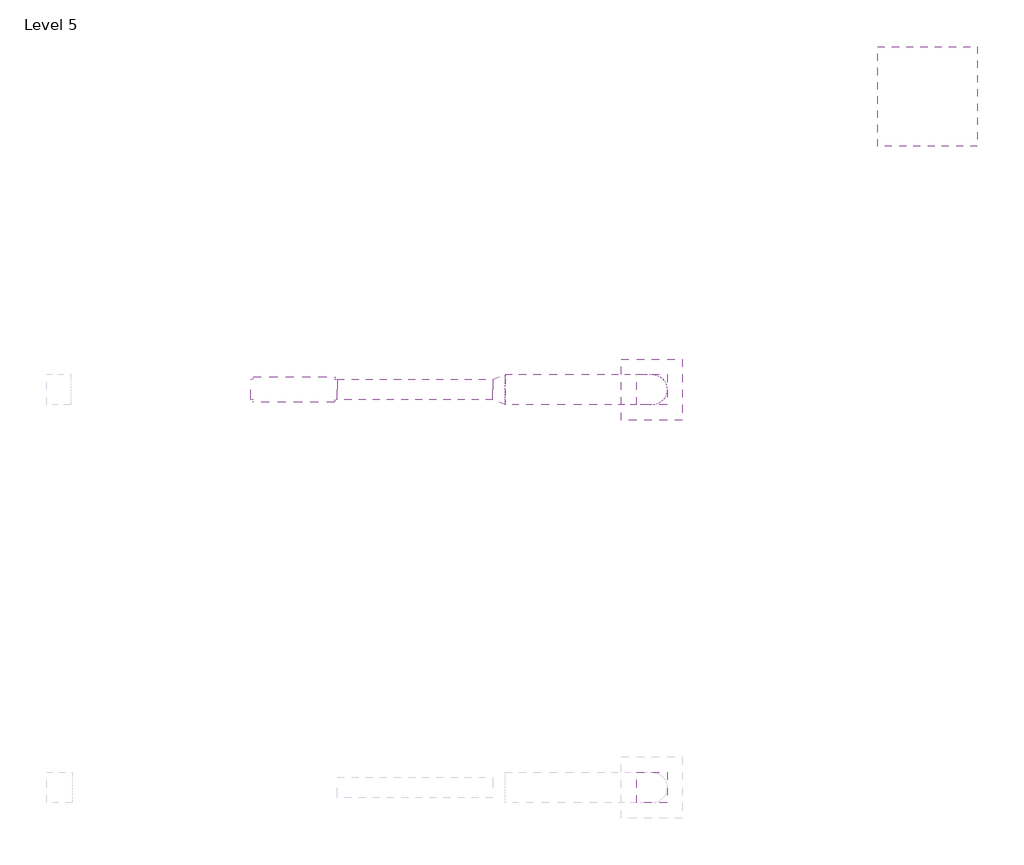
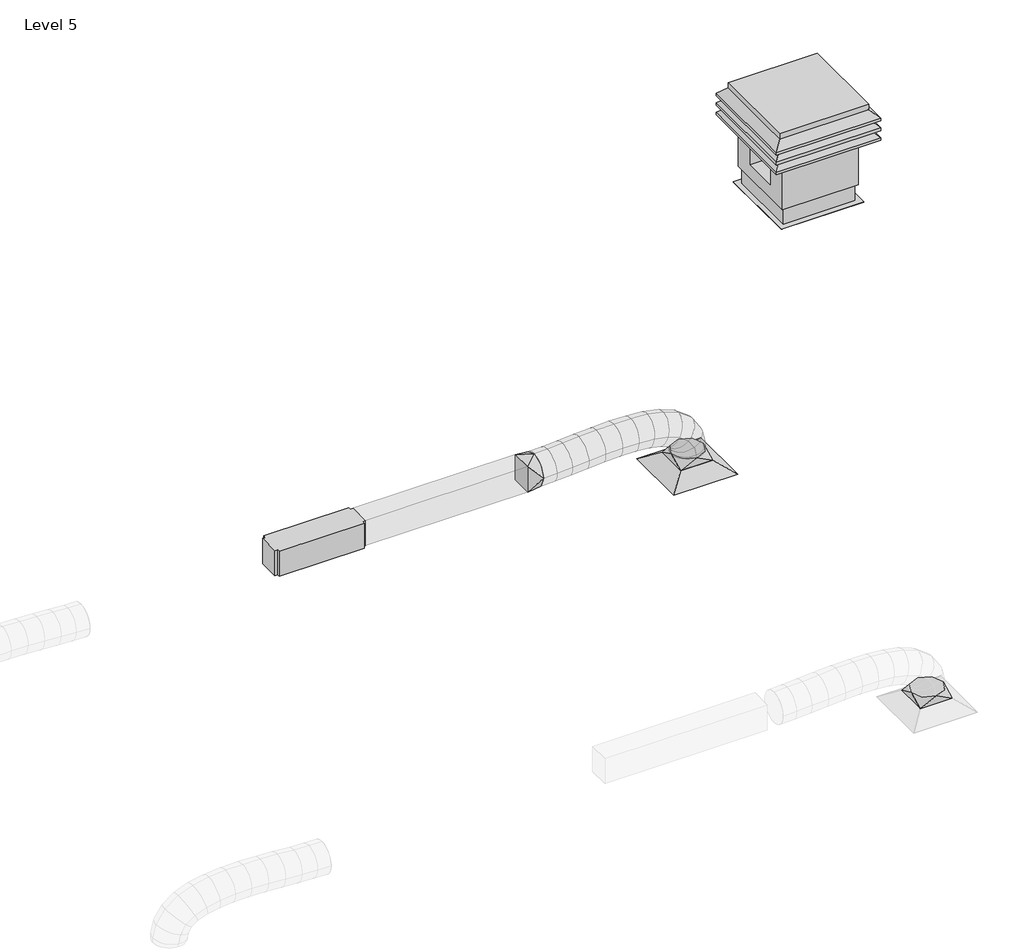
# One storey, part 7 of 7: 4 duct fittings, 2 duct segments, 1 air terminal, 1 proxy.
"""IFC4 building model written with IfcOpenShell, lengths in millimetres."""

import ifcopenshell
import ifcopenshell.guid

model = None  # the IFC model being written
_history = None  # IfcOwnerHistory: only IFC2X3 demands one
_inside = {}  # id of a spatial element -> (the spatial element, [elements in it])
_under = {}  # id of a project, library or spatial element -> (it, [spatial elements below it])
_declared = {}  # id of a project -> (the project, [libraries it declares])
_typed = {}  # id of a type object -> (the type object, [elements of that type])
_made_of = {}  # id of a material, layer set ... -> (it, [elements and type objects made of it])


def new_model(schema):
    """Start an empty IFC model of exactly this schema.

    Asked for "IFC4X3", IfcOpenShell would pick the latest addendum, in which some entities
    have other attributes; the version numbers below select the first issue.
    IFC2X3 requires an IfcOwnerHistory on every rooted entity: one is made here for all.
    """
    global model, _history
    if schema == "IFC4X3":
        model = ifcopenshell.file(schema_version=(4, 3, 0, 0))
    else:
        model = ifcopenshell.file(schema=schema)
    _inside.clear()
    _under.clear()
    _declared.clear()
    _typed.clear()
    _made_of.clear()
    _history = None
    if model.schema == "IFC2X3":
        org = make("IfcOrganization", Name="unknown")
        user = make(
            "IfcPersonAndOrganization",
            ThePerson=make("IfcPerson", FamilyName="unknown"),
            TheOrganization=org,
        )
        app = make(
            "IfcApplication",
            ApplicationDeveloper=org,
            Version="unknown",
            ApplicationFullName="unknown",
            ApplicationIdentifier="unknown",
        )
        _history = make(
            "IfcOwnerHistory",
            OwningUser=user,
            OwningApplication=app,
            ChangeAction="ADDED",
            CreationDate=0,
        )
    return model


def make(cls, **values):
    """One entity of the class cls with the attributes given. An attribute that is None is left unset."""
    return model.create_entity(
        cls, **{name: value for name, value in values.items() if value is not None}
    )


def rooted(cls, **values):
    """An entity with a GlobalId (a new one), such as an element, a storey or a relation."""
    return make(cls, GlobalId=ifcopenshell.guid.new(), OwnerHistory=_history, **values)


def si_unit(unit_type, name, prefix=None):
    """IfcSIUnit, for example si_unit("LENGTHUNIT", "METRE", prefix="MILLI")."""
    return make("IfcSIUnit", UnitType=unit_type, Prefix=prefix, Name=name)


def assignment(units):
    """IfcUnitAssignment: the units of a project."""
    return None if units is None else make("IfcUnitAssignment", Units=units)


def point(xyz):
    """IfcCartesianPoint."""
    return None if xyz is None else make("IfcCartesianPoint", Coordinates=xyz)


def direction(xyz):
    """IfcDirection."""
    return None if xyz is None else make("IfcDirection", DirectionRatios=xyz)


def frame(location, z_axis=None, x_axis=None):
    """IfcAxis2Placement3D, a coordinate frame: its origin and axes. An axis left out is left unset."""
    return make(
        "IfcAxis2Placement3D",
        Location=point(location),
        Axis=direction(z_axis),
        RefDirection=direction(x_axis),
    )


def origin():
    """The frame at (0, 0, 0) with its axes left unset."""
    return frame((0.0, 0.0, 0.0))


def place(relative_to, where):
    """IfcLocalPlacement: puts the frame where relative to a parent placement (None: the world)."""
    return make(
        "IfcLocalPlacement", PlacementRelTo=relative_to, RelativePlacement=where
    )


def context(
    kind, dimensions, precision=None, world=None, true_north=None, identifier=None
):
    """IfcGeometricRepresentationContext, for example the 3D "Model" context."""
    return make(
        "IfcGeometricRepresentationContext",
        ContextIdentifier=identifier,
        ContextType=kind,
        CoordinateSpaceDimension=dimensions,
        Precision=precision,
        WorldCoordinateSystem=world,
        TrueNorth=true_north,
    )


def project(units=None, contexts=None):
    """IfcProject with its units and contexts."""
    return rooted(
        "IfcProject",
        Name="project",
        RepresentationContexts=contexts,
        UnitsInContext=assignment(units),
    )


def spatial(cls, under=None, at=None, **own):
    """A site, building, storey or space (cls), placed at a placement, below another one or the project."""
    s = rooted(cls, ObjectPlacement=at, **own)
    if under is not None:
        _under.setdefault(under.id(), (under, []))[1].append(s)
    return s


def polyline(points):
    """IfcPolyline through the points."""
    return make("IfcPolyline", Points=[point(p) for p in points])


def circle_curve(where, radius):
    """IfcCircle in the frame where."""
    return make("IfcCircle", Position=where, Radius=radius)


def ellipse_curve(where, semi_axis1, semi_axis2):
    """IfcEllipse in the frame where."""
    return make(
        "IfcEllipse", Position=where, SemiAxis1=semi_axis1, SemiAxis2=semi_axis2
    )


def outline(outer, holes=None, kind="AREA"):
    """IfcArbitraryClosedProfileDef: a profile drawn as a closed curve; with holes, ...WithVoids."""
    if holes is None:
        return make("IfcArbitraryClosedProfileDef", ProfileType=kind, OuterCurve=outer)
    return make(
        "IfcArbitraryProfileDefWithVoids",
        ProfileType=kind,
        OuterCurve=outer,
        InnerCurves=holes,
    )


def extrude(swept, where, along, depth):
    """IfcExtrudedAreaSolid: the profile swept, set in the frame where, extruded along a direction by depth."""
    return make(
        "IfcExtrudedAreaSolid",
        SweptArea=swept,
        Position=where,
        ExtrudedDirection=direction(along),
        Depth=depth,
    )


def faces_of(points, faces, orient=None, outer=None):
    """IfcFace entities. A face is a list of loops; a loop is a list of indices into points, from 0.

    orient and outer hold one flag for each loop. By default every Orientation is true, the
    first loop of a face is its IfcFaceOuterBound and the others are IfcFaceBound.
    """
    made = []
    for i, loops in enumerate(faces):
        bounds = []
        for j, loop in enumerate(loops):
            is_outer = j == 0 if outer is None else outer[i][j]
            bounds.append(
                make(
                    "IfcFaceOuterBound" if is_outer else "IfcFaceBound",
                    Bound=make("IfcPolyLoop", Polygon=[points[k] for k in loop]),
                    Orientation=True if orient is None else orient[i][j],
                )
            )
        made.append(make("IfcFace", Bounds=bounds))
    return made


def faceted_brep(points, faces, orient=None, outer=None, voids=None):
    """IfcFacetedBrep: a solid bounded by flat faces; with voids (closed shells), ...WithVoids."""
    shared = [point(p) for p in points]
    hull = make("IfcClosedShell", CfsFaces=faces_of(shared, faces, orient, outer))
    if voids is None:
        return make("IfcFacetedBrep", Outer=hull)
    return make(
        "IfcFacetedBrepWithVoids",
        Outer=hull,
        Voids=[
            make(cls, CfsFaces=faces_of(shared, fs, o, b)) for cls, fs, o, b in voids
        ],
    )


def shape(context_of_items, identifier, shape_type, items):
    """IfcShapeRepresentation: the items that make up one representation, for example the "Body"."""
    return make(
        "IfcShapeRepresentation",
        ContextOfItems=context_of_items,
        RepresentationIdentifier=identifier,
        RepresentationType=shape_type,
        Items=items,
    )


def source(mapping_origin, context_of_items, identifier, shape_type, items):
    """IfcRepresentationMap: a shape defined once, which mapped items show again and again."""
    return make(
        "IfcRepresentationMap",
        MappingOrigin=mapping_origin,
        MappedRepresentation=shape(context_of_items, identifier, shape_type, items),
    )


def transform(
    local_origin,
    x_axis=None,
    y_axis=None,
    z_axis=None,
    scale=None,
    scale2=None,
    scale3=None,
    uniform=True,
):
    """IfcCartesianTransformationOperator3D, or its non-uniform kind. x_axis, y_axis, z_axis: its Axis1, 2, 3."""
    if uniform:
        return make(
            "IfcCartesianTransformationOperator3D",
            Axis1=direction(x_axis),
            Axis2=direction(y_axis),
            LocalOrigin=point(local_origin),
            Scale=scale,
            Axis3=direction(z_axis),
        )
    return make(
        "IfcCartesianTransformationOperator3DnonUniform",
        Axis1=direction(x_axis),
        Axis2=direction(y_axis),
        LocalOrigin=point(local_origin),
        Scale=scale,
        Axis3=direction(z_axis),
        Scale2=scale2,
        Scale3=scale3,
    )


def mapped(mapping_source, mapping_target):
    """IfcMappedItem: shows the shape of a source again, moved by a transform."""
    return make(
        "IfcMappedItem", MappingSource=mapping_source, MappingTarget=mapping_target
    )


def made_of(thing, what):
    """Note that an element or type object is made of a material, layer set ...; save() writes the relation."""
    if what is not None:
        _made_of.setdefault(what.id(), (what, []))[1].append(thing)
    return thing


def element(
    cls,
    number,
    at=None,
    inside=None,
    cuts=None,
    type_object=None,
    material=None,
    context=None,
    identifier="Body",
    shape_type=None,
    held_by="IfcProductDefinitionShape",
    body=None,
    shapes=None,
    **own,
):
    """One element of the class cls, such as IfcWall. Its Tag is "e" and its number.

    at: its placement. inside: the storey or other place that contains it. cuts: it is an
    opening in that element (IfcRelVoidsElement). A single representation is given by context,
    identifier, shape_type and body (its items); several are given by shapes. held_by: the class
    of the entity that holds the representations. save() writes the other relations.
    """
    e = rooted(cls, Tag="e%d" % number, ObjectPlacement=at, **own)
    if body is not None:
        shapes = [shape(context, identifier, shape_type, body)]
    if shapes is not None:
        e.Representation = make(held_by, Representations=shapes)
    if inside is not None:
        _inside.setdefault(inside.id(), (inside, []))[1].append(e)
    if cuts is not None:
        rooted(
            "IfcRelVoidsElement", RelatingBuildingElement=cuts, RelatedOpeningElement=e
        )
    if type_object is not None:
        _typed.setdefault(type_object.id(), (type_object, []))[1].append(e)
    return made_of(e, material)


def aggregate(whole, parts):
    """IfcRelAggregates: a whole, such as a stair, and the parts it consists of."""
    return rooted("IfcRelAggregates", RelatingObject=whole, RelatedObjects=parts)


def save(model, path):
    """Write the relations noted so far, then the file.

    IfcRelAggregates (storeys below a building ...), IfcRelContainedInSpatialStructure (elements
    in a storey), IfcRelDefinesByType, IfcRelAssociatesMaterial and IfcRelDeclares: one each for
    every whole, place, type object, material and project.
    """
    for whole, parts in _under.values():
        aggregate(whole, parts)
    for where, things in _inside.values():
        rooted(
            "IfcRelContainedInSpatialStructure",
            RelatedElements=things,
            RelatingStructure=where,
        )
    for kind, things in _typed.values():
        rooted("IfcRelDefinesByType", RelatedObjects=things, RelatingType=kind)
    for what, things in _made_of.values():
        rooted("IfcRelAssociatesMaterial", RelatedObjects=things, RelatingMaterial=what)
    for by, libraries in _declared.values():
        rooted("IfcRelDeclares", RelatingContext=by, RelatedDefinitions=libraries)
    model.write(path)


def plane_surface(at):
    """IfcPlane: the flat surface through the origin of the frame at, square to its z axis."""
    return make("IfcPlane", Position=at)


def cylinder_surface(at, radius):
    """IfcCylindricalSurface: all points at the distance radius from the z axis of the frame at."""
    return make("IfcCylindricalSurface", Position=at, Radius=radius)


def spline_surface(u_degree, v_degree, points, u_multiplicities, v_multiplicities, u_knots, v_knots, weights=None):
    """IfcBSplineSurfaceWithKnots; with weights, IfcRationalBSplineSurfaceWithKnots. points: one row for each step in u."""
    own = dict(
        UDegree=u_degree,
        VDegree=v_degree,
        ControlPointsList=[[point(p) for p in row] for row in points],
        SurfaceForm="UNSPECIFIED",
        UClosed=False,
        VClosed=False,
        SelfIntersect=False,
        UMultiplicities=u_multiplicities,
        VMultiplicities=v_multiplicities,
        UKnots=u_knots,
        VKnots=v_knots,
        KnotSpec="UNSPECIFIED",
    )
    if weights is None:
        return make("IfcBSplineSurfaceWithKnots", **own)
    return make("IfcRationalBSplineSurfaceWithKnots", WeightsData=weights, **own)


def advanced_brep(points, edges, surfaces, faces):
    """IfcAdvancedBrep: a solid bounded by faces that lie on surfaces and meet in shared edges.

    An edge is (start, end): straight between two places in points (the first is 0);
    or (start, end, curve); or (start, end, curve, False) where it runs against its curve.
    A face is (place in surfaces, loops), or (place, loops, False) where it looks against
    its surface's normal. A loop lists edges by number (the first is 1), with a minus sign
    where the edge is run from its end to its start. The first loop is the outer one.
    """
    corners = [point(p) for p in points]
    vertices = [make("IfcVertexPoint", VertexGeometry=c) for c in corners]
    made = []
    for start, end, *more in edges:
        made.append(
            make(
                "IfcEdgeCurve",
                EdgeStart=vertices[start],
                EdgeEnd=vertices[end],
                EdgeGeometry=more[0] if more else make("IfcPolyline", Points=[corners[start], corners[end]]),
                SameSense=more[1] if len(more) > 1 else True,
            )
        )
    hull = []
    for where, loops, *sense in faces:
        bounds = []
        for j, loop in enumerate(loops):
            ring = [make("IfcOrientedEdge", EdgeElement=made[abs(k) - 1], Orientation=k > 0) for k in loop]
            bounds.append(
                make(
                    "IfcFaceOuterBound" if j == 0 else "IfcFaceBound",
                    Bound=make("IfcEdgeLoop", EdgeList=ring),
                    Orientation=True,
                )
            )
        hull.append(make("IfcAdvancedFace", Bounds=bounds, FaceSurface=surfaces[where], SameSense=sense[0] if sense else True))
    return make("IfcAdvancedBrep", Outer=make("IfcClosedShell", CfsFaces=hull))


def supply_diffuser_24_x_24_face_16_x_16_connection_ff221211(model_context):
    return source(origin(), model_context, "Body", "Brep", [
        faceted_brep([(150.0, 150.0, 101.6), (-150.0, 150.0, 101.6), (-150.0, -150.0, 101.6), (150.0, -150.0, 101.6), (300.0, 300.0, 0.0), (300.0, -300.0, 0.0), (-300.0, -300.0, 0.0), (-300.0, 300.0, 0.0)], [[[0, 1, 2, 3]], [[4, 5, 6, 7]], [[4, 7, 1, 0]], [[7, 6, 2, 1]], [[6, 5, 3, 2]], [[5, 4, 0, 3]]]),
    ])


def asp_t_side_100_asp_t_side_c54fa9d1(model_context):
    return source(origin(), model_context, "Body", "SolidModel", [
        extrude(outline(polyline([(397.647472, -387.35), (-377.052528, -387.35), (-377.052528, 387.35), (397.647472, 387.35), (397.647472, -387.35)]), holes=[polyline([(-326.252528, 336.55), (-326.252528, -336.55), (346.847472, -336.55), (346.847472, 336.55), (-326.252528, 336.55)])]), frame((0.0, 0.0, -165.1), z_axis=(0.0, 0.0, 1.0), x_axis=(1.0, 0.0, 0.0)), (0.0, 0.0, 1.0), 3.175),
        extrude(outline(polyline([(-326.252528, 336.55), (346.847472, 336.55), (346.847472, -336.55), (-326.252528, -336.55), (-326.252528, 336.55)]), holes=[polyline([(308.747472, -298.45), (308.747472, 298.45), (-288.152528, 298.45), (-288.152528, -298.45), (308.747472, -298.45)])]), frame((0.0, 0.0, -165.1), z_axis=(0.0, 0.0, 1.0), x_axis=(1.0, 0.0, 0.0)), (0.0, 0.0, 1.0), 241.3),
        faceted_brep([(-408.802528, 419.1, 812.8), (-408.802528, -419.1, 812.8), (429.397472, -419.1, 812.8), (429.397472, 419.1, 812.8), (499.247472, 488.95, 476.25), (499.247472, -488.95, 476.25), (-478.652528, -488.95, 476.25), (-478.652528, 488.95, 476.25), (-478.652528, 488.95, 501.65), (499.247472, 488.95, 501.65), (499.247472, 488.95, 596.9), (499.247472, 488.95, 571.5), (-478.652528, 488.95, 571.5), (-478.652528, 488.95, 596.9), (499.247472, 488.95, 692.15), (499.247472, 488.95, 666.75), (-478.652528, 488.95, 666.75), (-478.652528, 488.95, 692.15), (-478.652528, -488.95, 501.65), (-478.652528, -488.95, 571.5), (-478.652528, -488.95, 596.9), (-478.652528, -488.95, 666.75), (-478.652528, -488.95, 692.15), (499.247472, -488.95, 501.65), (499.247472, -488.95, 571.5), (499.247472, -488.95, 596.9), (499.247472, -488.95, 666.75), (499.247472, -488.95, 692.15), (-408.802528, -419.1, 571.5), (-408.802528, 419.1, 571.5), (429.397472, -419.1, 571.5), (429.397472, 419.1, 571.5), (-408.802528, -419.1, 666.75), (-408.802528, 419.1, 666.75), (429.397472, -419.1, 666.75), (429.397472, 419.1, 666.75), (-408.802528, -419.1, 762.0), (-408.802528, 419.1, 762.0), (429.397472, -419.1, 762.0), (429.397472, 419.1, 762.0)], [[[0, 1, 2, 3]], [[4, 5, 6, 7]], [[4, 7, 8, 9]], [[10, 11, 12, 13]], [[14, 15, 16, 17]], [[7, 6, 18, 8]], [[13, 12, 19, 20]], [[17, 16, 21, 22]], [[6, 5, 23, 18]], [[20, 19, 24, 25]], [[22, 21, 26, 27]], [[5, 4, 9, 23]], [[24, 11, 10, 25]], [[26, 15, 14, 27]], [[8, 18, 28, 29]], [[12, 11, 24, 19], [28, 30, 31, 29]], [[13, 20, 32, 33]], [[16, 15, 26, 21], [32, 34, 35, 33]], [[17, 22, 36, 37]], [[1, 0, 37, 36]], [[23, 9, 31, 30]], [[25, 10, 35, 34]], [[3, 2, 38, 39]], [[27, 14, 39, 38]], [[30, 28, 18, 23]], [[34, 32, 20, 25]], [[38, 36, 22, 27]], [[36, 38, 2, 1]], [[29, 31, 9, 8]], [[33, 35, 10, 13]], [[37, 39, 14, 17]], [[39, 37, 0, 3]]]),
        faceted_brep([(367.484972, 357.1875, 476.25), (-346.890028, 357.1875, 476.25), (-346.890028, -357.1875, 476.25), (367.484972, -357.1875, 476.25), (367.484972, 357.1875, 0.0), (367.484972, -357.1875, 0.0), (-346.890028, -357.1875, 0.0), (-346.890028, 357.1875, 0.0), (364.309972, 354.0125, 0.0), (-343.715028, 354.0125, 0.0), (-343.715028, -354.0125, 0.0), (364.309972, -354.0125, 0.0), (173.809972, -357.1875, 419.1), (173.809972, -357.1875, 133.35), (-153.215028, -357.1875, 133.35), (-153.215028, -357.1875, 419.1), (364.309972, 354.0125, 76.2), (364.309972, -354.0125, 76.2), (-343.715028, -354.0125, 76.2), (-343.715028, 354.0125, 76.2), (173.809972, -204.7875, 419.1), (-153.215028, -204.7875, 419.1), (-153.215028, -204.7875, 133.35), (173.809972, -204.7875, 133.35)], [[[0, 1, 2, 3]], [[4, 5, 6, 7], [8, 9, 10, 11]], [[1, 0, 4, 7]], [[2, 1, 7, 6]], [[3, 2, 6, 5], [12, 13, 14, 15]], [[0, 3, 5, 4]], [[16, 17, 18, 19]], [[16, 19, 9, 8]], [[19, 18, 10, 9]], [[18, 17, 11, 10]], [[17, 16, 8, 11]], [[20, 21, 22, 23]], [[20, 23, 13, 12]], [[23, 22, 14, 13]], [[22, 21, 15, 14]], [[21, 20, 12, 15]]]),
    ])


def rectangular_cross_standard_00746d32(model_context):
    return source(origin(), model_context, "Body", "SweptSolid", [
        extrude(outline(polyline([(100.0, -425.4), (-100.0, -425.4), (-100.0, -400.0), (-125.4, -400.0), (-125.4, 400.0), (-100.0, 400.0), (-100.0, 425.4), (100.0, 425.4), (100.0, 400.0), (125.4, 400.0), (125.4, -400.0), (100.0, -400.0), (100.0, -425.4)])), frame((0.0, 0.0, -125.0), z_axis=(0.0, 0.0, 1.0), x_axis=(1.0, 0.0, 0.0)), (0.0, 0.0, 1.0), 250.0),
    ])


def rectangular_to_round_transition_angle_45_degree_641efff0(model_context):
    return source(origin(), model_context, "Body", "AdvancedBrep", [
        advanced_brep(
        [(75.0, 0.0, 150.0), (75.0, -150.0, 0.0), (75.0, 0.0, -150.0), (75.0, 150.0, 0.0), (0.0, -150.0, 150.0), (0.0, 150.0, 150.0), (0.0, 150.0, -150.0), (0.0, -150.0, -150.0)],
        [
            (0, 1, circle_curve(frame((75.0, 0.0, 0.0), z_axis=(1.0, 0.0, 0.0), x_axis=(0.0, 1.0, 0.0)), 150.0)),
            (1, 2, circle_curve(frame((75.0, 0.0, 0.0), z_axis=(1.0, 0.0, 0.0), x_axis=(0.0, 1.0, 0.0)), 150.0)),
            (2, 3, circle_curve(frame((75.0, 0.0, 0.0), z_axis=(1.0, 0.0, 0.0), x_axis=(0.0, 1.0, 0.0)), 150.0)),
            (3, 0, circle_curve(frame((75.0, 0.0, 0.0), z_axis=(1.0, 0.0, 0.0), x_axis=(0.0, 1.0, 0.0)), 150.0)),
            (4, 5),
            (5, 6),
            (6, 7),
            (7, 4),
            (0, 4),
            (4, 1),
            (7, 1),
            (7, 2),
            (6, 2),
            (6, 3),
            (5, 3),
            (5, 0),
        ],
        [
            plane_surface(frame((75.0, 0.0, 0.0), z_axis=(1.0, 0.0, 0.0), x_axis=(0.0, 0.0, -1.0))),
            plane_surface(frame((0.0, 0.0, 0.0), z_axis=(-1.0, 0.0, 0.0), x_axis=(0.0, 0.0, -1.0))),
            spline_surface(2, 1, [[(0.0, -150.0, 150.0), (75.0, 0.0, 150.0)], [(0.0, -150.0, 150.0), (75.0, -150.0, 150.0)], [(0.0, -150.0, 150.0), (75.0, -150.0, 0.0)]], [3, 3], [2, 2], [0.0, 1.0], [0.0, 1.0], weights=[[1.0, 1.0], [0.7071067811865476, 0.7071067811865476], [1.0, 1.0]]),
            plane_surface(frame((0.0, -150.0, 0.0), z_axis=(0.0, -1.0, 0.0), x_axis=(0.0, 0.0, -1.0))),
            spline_surface(2, 1, [[(0.0, -150.0, -150.0), (75.0, -150.0, 0.0)], [(0.0, -150.0, -150.0), (75.0, -150.0, -150.0)], [(0.0, -150.0, -150.0), (75.0, 0.0, -150.0)]], [3, 3], [2, 2], [0.0, 1.0], [0.0, 1.0], weights=[[1.0, 1.0], [0.7071067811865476, 0.7071067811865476], [1.0, 1.0]]),
            plane_surface(frame((0.0, 0.0, -150.0), z_axis=(0.0, 0.0, -1.0), x_axis=(0.0, 1.0, 0.0))),
            spline_surface(2, 1, [[(0.0, 150.0, -150.0), (75.0, 0.0, -150.0)], [(0.0, 150.0, -150.0), (75.0, 150.0, -150.0)], [(0.0, 150.0, -150.0), (75.0, 150.0, 0.0)]], [3, 3], [2, 2], [0.0, 1.0], [0.0, 1.0], weights=[[1.0, 1.0], [0.7071067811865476, 0.7071067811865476], [1.0, 1.0]]),
            plane_surface(frame((0.0, 150.0, 0.0), z_axis=(0.0, 1.0, 0.0), x_axis=(0.0, 0.0, 1.0))),
            spline_surface(2, 1, [[(0.0, 150.0, 150.0), (75.0, 150.0, 0.0)], [(0.0, 150.0, 150.0), (75.0, 150.0, 150.0)], [(0.0, 150.0, 150.0), (75.0, 0.0, 150.0)]], [3, 3], [2, 2], [0.0, 1.0], [0.0, 1.0], weights=[[1.0, 1.0], [0.7071067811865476, 0.7071067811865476], [1.0, 1.0]]),
            plane_surface(frame((0.0, 0.0, 150.0), z_axis=(0.0, 0.0, 1.0), x_axis=(0.0, -1.0, 0.0))),
        ],
        [
            (0, [[1, 2, 3, 4]]),
            (1, [[5, 6, 7, 8]]),
            (2, [[-1, 9, 10]]),
            (3, [[-8, 11, -10]]),
            (4, [[-2, -11, 12]]),
            (5, [[-7, 13, -12]]),
            (6, [[-3, -13, 14]]),
            (7, [[-6, 15, -14]]),
            (8, [[-4, -15, 16]]),
            (9, [[-5, -9, -16]]),
        ],
    ),
    ])


def rectangular_to_round_transition_angle_45_degree_389d55c9(model_context):
    return source(origin(), model_context, "Body", "AdvancedBrep", [
        advanced_brep(
        [(120.7106781, 0.0, 150.0), (120.7106781, -150.0, 0.0), (120.7106781, 0.0, -150.0), (120.7106781, 150.0, 0.0), (0.0, -100.0, 125.0), (0.0, 100.0, 125.0), (0.0, 100.0, -125.0), (0.0, -100.0, -125.0)],
        [
            (0, 1, circle_curve(frame((120.7106781, 0.0, 0.0), z_axis=(1.0, 0.0, 0.0), x_axis=(0.0, 1.0, 0.0)), 150.0)),
            (1, 2, circle_curve(frame((120.7106781, 0.0, 0.0), z_axis=(1.0, 0.0, 0.0), x_axis=(0.0, 1.0, 0.0)), 150.0)),
            (2, 3, circle_curve(frame((120.7106781, 0.0, 0.0), z_axis=(1.0, 0.0, 0.0), x_axis=(0.0, 1.0, 0.0)), 150.0)),
            (3, 0, circle_curve(frame((120.7106781, 0.0, 0.0), z_axis=(1.0, 0.0, 0.0), x_axis=(0.0, 1.0, 0.0)), 150.0)),
            (4, 5),
            (5, 6),
            (6, 7),
            (7, 4),
            (0, 4),
            (4, 1),
            (7, 1),
            (7, 2),
            (6, 2),
            (6, 3),
            (5, 3),
            (5, 0),
        ],
        [
            plane_surface(frame((120.7106781, 0.0, 0.0), z_axis=(1.0, 0.0, 0.0), x_axis=(0.0, 0.0, -1.0))),
            plane_surface(frame((0.0, 0.0, 0.0), z_axis=(-1.0, 0.0, 0.0), x_axis=(0.0, 0.0, -1.0))),
            spline_surface(2, 1, [[(0.0, -100.0, 125.0), (120.7106781, 0.0, 150.0)], [(0.0, -100.0, 125.0), (120.7106781, -150.0, 150.0)], [(0.0, -100.0, 125.0), (120.7106781, -150.0, 0.0)]], [3, 3], [2, 2], [0.0, 1.0], [0.0, 1.0], weights=[[1.0, 1.0], [0.7071067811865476, 0.7071067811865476], [1.0, 1.0]]),
            plane_surface(frame((0.0, -100.0, 0.0), z_axis=(-0.38268343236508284, -0.9238795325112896, 0.0), x_axis=(0.0, 0.0, -1.0))),
            spline_surface(2, 1, [[(0.0, -100.0, -125.0), (120.7106781, -150.0, 0.0)], [(0.0, -100.0, -125.0), (120.7106781, -150.0, -150.0)], [(0.0, -100.0, -125.0), (120.7106781, 0.0, -150.0)]], [3, 3], [2, 2], [0.0, 1.0], [0.0, 1.0], weights=[[1.0, 1.0], [0.7071067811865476, 0.7071067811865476], [1.0, 1.0]]),
            plane_surface(frame((0.0, 0.0, -125.0), z_axis=(-0.2028030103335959, 0.0, -0.9792195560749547), x_axis=(0.0, 1.0, 0.0))),
            spline_surface(2, 1, [[(0.0, 100.0, -125.0), (120.7106781, 0.0, -150.0)], [(0.0, 100.0, -125.0), (120.7106781, 150.0, -150.0)], [(0.0, 100.0, -125.0), (120.7106781, 150.0, 0.0)]], [3, 3], [2, 2], [0.0, 1.0], [0.0, 1.0], weights=[[1.0, 1.0], [0.7071067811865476, 0.7071067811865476], [1.0, 1.0]]),
            plane_surface(frame((0.0, 100.0, 0.0), z_axis=(-0.3826834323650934, 0.9238795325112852, 0.0), x_axis=(0.0, 0.0, 1.0))),
            spline_surface(2, 1, [[(0.0, 100.0, 125.0), (120.7106781, 150.0, 0.0)], [(0.0, 100.0, 125.0), (120.7106781, 150.0, 150.0)], [(0.0, 100.0, 125.0), (120.7106781, 0.0, 150.0)]], [3, 3], [2, 2], [0.0, 1.0], [0.0, 1.0], weights=[[1.0, 1.0], [0.7071067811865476, 0.7071067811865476], [1.0, 1.0]]),
            plane_surface(frame((0.0, 0.0, 125.0), z_axis=(-0.20280301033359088, 0.0, 0.9792195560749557), x_axis=(0.0, -1.0, 0.0))),
        ],
        [
            (0, [[1, 2, 3, 4]]),
            (1, [[5, 6, 7, 8]]),
            (2, [[-1, 9, 10]]),
            (3, [[-8, 11, -10]]),
            (4, [[-2, -11, 12]]),
            (5, [[-7, 13, -12]]),
            (6, [[-3, -13, 14]]),
            (7, [[-6, 15, -14]]),
            (8, [[-4, -15, 16]]),
            (9, [[-5, -9, -16]]),
        ],
    ),
    ])


model = new_model("IFC4")

# Units and contexts
model_context = context("Model", 3, world=origin())
ifc_project = project(units=[si_unit("LENGTHUNIT", "METRE", prefix="MILLI")], contexts=[model_context])

# Site, building, storey
site = spatial("IfcSite", under=ifc_project)
building = spatial("IfcBuilding", under=site)
storey = spatial("IfcBuildingStorey", under=building, Name="Level 5", Elevation=19507.2)

# Air terminal
placement = place(None, origin())
supply_diffuser_24_x_24_face_16_x_16_connection_shape = supply_diffuser_24_x_24_face_16_x_16_connection_ff221211(model_context)
element("IfcAirTerminal", 1, ObjectType="Supply Diffuser : 24 x 24 Face 16 x 16 Connection", at=placement, inside=storey, context=model_context, shape_type="MappedRepresentation", body=[
    mapped(supply_diffuser_24_x_24_face_16_x_16_connection_shape, transform((5721.7425718, 12661.2215712, 21507.2), x_axis=(1.0, 0.0, 0.0), y_axis=(0.0, 1.0, 0.0), z_axis=(0.0, 0.0, 1.0))),
])

# Proxy
asp_t_side_100_asp_t_side_shape = asp_t_side_100_asp_t_side_c54fa9d1(model_context)
element("IfcBuildingElementProxy", 2, Name="ASP-T_SIDE : 100_ASP-T_SIDE", ObjectType="ASP-T_SIDE : 100_ASP-T_SIDE", at=placement, inside=storey, context=model_context, shape_type="MappedRepresentation", body=[
    mapped(asp_t_side_100_asp_t_side_shape, transform((8425.0442542, 15546.0604171, 21707.2), x_axis=(0.0, -1.0, 0.0), y_axis=(1.0, 0.0, 0.0), z_axis=(0.0, 0.0, 1.0))),
])

# Duct fittings
rectangular_cross_standard_shape = rectangular_cross_standard_00746d32(model_context)
element("IfcDuctFitting", 3, ObjectType="Rectangular Cross : Standard", at=placement, inside=storey, context=model_context, shape_type="MappedRepresentation", body=[
    mapped(rectangular_cross_standard_shape, transform((2213.8567543, 12661.2215712, 21983.425), x_axis=(0.0, -1.0, 0.0), y_axis=(1.0, 0.0, 0.0), z_axis=(0.0, 0.0, 1.0))),
])
rectangular_to_round_transition_angle_45_degree_shape = rectangular_to_round_transition_angle_45_degree_641efff0(model_context)
element("IfcDuctFitting", 4, ObjectType="Rectangular to Round Transition - Angle : 45 Degree", at=placement, inside=storey, context=model_context, shape_type="MappedRepresentation", body=[
    mapped(rectangular_to_round_transition_angle_45_degree_shape, transform((5721.7425718, 8760.722681, 21608.8), x_axis=(0.0, 0.0, 1.0), y_axis=(-1.0, 0.0, 0.0), z_axis=(0.0, -1.0, 0.0))),
])
element("IfcDuctFitting", 5, ObjectType="Rectangular to Round Transition - Angle : 45 Degree", at=placement, inside=storey, context=model_context, shape_type="MappedRepresentation", body=[
    mapped(rectangular_to_round_transition_angle_45_degree_shape, transform((5721.7425718, 12661.2215712, 21608.8), x_axis=(0.0, 0.0, 1.0), y_axis=(-1.0, 0.0, 0.0), z_axis=(0.0, -1.0, 0.0))),
])
rectangular_to_round_transition_angle_45_degree_2_shape = rectangular_to_round_transition_angle_45_degree_389d55c9(model_context)
element("IfcDuctFitting", 6, ObjectType="Rectangular to Round Transition - Angle : 45 Degree", at=placement, inside=storey, context=model_context, shape_type="MappedRepresentation", body=[
    mapped(rectangular_to_round_transition_angle_45_degree_2_shape, transform((4164.8206306, 12661.2215712, 21983.425), x_axis=(1.0, 0.0, 0.0), y_axis=(0.0, 1.0, 0.0), z_axis=(0.0, 0.0, 1.0))),
])

# Duct segments
element("IfcDuctSegment", 7, ObjectType="Flex - Round", at=placement, inside=storey, context=model_context, shape_type="AdvancedBrep", body=[
    advanced_brep(
    [(5871.7425718, 12661.2215712, 21683.8), (5721.7425718, 12511.2215712, 21683.8), (5571.7425718, 12661.2215712, 21683.8), (5721.7425718, 12811.2215712, 21683.8), (5871.7425718, 12661.2215712, 21726.4384025), (5721.7425718, 12511.2215712, 21709.5374394), (5571.7425718, 12661.2215712, 21692.6364763), (5721.7425718, 12811.2215712, 21709.5374394), (5843.226865, 12661.2215712, 21851.3737092), (5702.8231708, 12511.2215712, 21792.4286395), (5562.4194767, 12661.2215712, 21733.4835698), (5702.8231708, 12811.2215712, 21792.4286395), (5760.5374137, 12661.2215712, 21980.2219341), (5649.317954, 12511.2215712, 21875.8014531), (5538.0984944, 12661.2215712, 21771.3809721), (5649.317954, 12811.2215712, 21875.8014531), (5638.8868804, 12661.2215712, 22069.5911838), (5566.1064004, 12511.2215712, 21936.9319217), (5493.3259205, 12661.2215712, 21804.2726597), (5566.1064004, 12811.2215712, 21936.9319217), (5500.256594, 12661.2215712, 22123.3575379), (5458.0679891, 12511.2215712, 21978.8335266), (5415.8793842, 12661.2215712, 21834.3095153), (5458.0679891, 12811.2215712, 21978.8335266), (5351.4262846, 12661.2215712, 22153.2271695), (5330.0821991, 12511.2215712, 22004.5197488), (5308.7381137, 12661.2215712, 21855.8123281), (5330.0821991, 12811.2215712, 22004.5197488), (5194.6824607, 12661.2215712, 22166.9062305), (5187.0285096, 12511.2215712, 22017.0040693), (5179.3745585, 12661.2215712, 21867.1019082), (5187.0285096, 12811.2215712, 22017.0040693), (5032.6024589, 12661.2215712, 22169.3345413), (5033.7863995, 12511.2215712, 22019.2999694), (5034.9703401, 12661.2215712, 21869.2653974), (5033.7863995, 12811.2215712, 22019.2999694), (4868.6693471, 12661.2215712, 22164.2898816), (4875.235348, 12511.2215712, 22014.42093), (4881.8013489, 12661.2215712, 21864.5519784), (4875.235348, 12811.2215712, 22014.42093), (4707.0624445, 12661.2215712, 22155.1000331), (4716.2548341, 12511.2215712, 22005.3804322), (4725.4472237, 12661.2215712, 21855.6608314), (4716.2548341, 12811.2215712, 22005.3804322), (4552.4980138, 12661.2215712, 22144.9093208), (4561.7243369, 12511.2215712, 21995.1919573), (4570.9506599, 12661.2215712, 21845.4745937), (4561.7243369, 12811.2215712, 21995.1919573), (4410.1976081, 12661.2215712, 22136.7526129), (4416.5233354, 12511.2215712, 21986.8689862), (4422.8490627, 12661.2215712, 21836.9853595), (4416.5233354, 12811.2215712, 21986.8689862), (4287.4410002, 12661.2215712, 22133.425), (4289.4736821, 12511.2215712, 21983.425), (4291.506364, 12661.2215712, 21833.425), (4289.4736821, 12811.2215712, 21983.425), (4285.5313087, 12661.2215712, 22133.425), (4285.5313087, 12511.2215712, 21983.425), (4285.5313087, 12661.2215712, 21833.425), (4285.5313087, 12811.2215712, 21983.425)],
    [
        (0, 1, circle_curve(frame((5721.7425718, 12661.2215712, 21683.8), z_axis=(0.0, 0.0, -1.0), x_axis=(1.0, 0.0, 0.0)), 150.0)),
        (1, 2, circle_curve(frame((5721.7425718, 12661.2215712, 21683.8), z_axis=(0.0, 0.0, -1.0), x_axis=(1.0, 0.0, 0.0)), 150.0)),
        (2, 3, circle_curve(frame((5721.7425718, 12661.2215712, 21683.8), z_axis=(0.0, 0.0, -1.0), x_axis=(1.0, 0.0, 0.0)), 150.0)),
        (3, 0, circle_curve(frame((5721.7425718, 12661.2215712, 21683.8), z_axis=(0.0, 0.0, -1.0), x_axis=(1.0, 0.0, 0.0)), 150.0)),
        (0, 4),
        (4, 5, ellipse_curve(frame((5721.7425718, 12661.2215712, 21709.5374394), z_axis=(0.11196462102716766, 0.0, -0.9937121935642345), x_axis=(-0.9937121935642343, 0.0, -0.11196462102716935)), 150.949139, 150.0)),
        (5, 1),
        (5, 6, ellipse_curve(frame((5721.7425718, 12661.2215712, 21709.5374394), z_axis=(0.11196462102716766, 0.0, -0.9937121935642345), x_axis=(-0.9937121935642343, 0.0, -0.11196462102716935)), 150.949139, 150.0)),
        (6, 2),
        (6, 7, ellipse_curve(frame((5721.7425718, 12661.2215712, 21709.5374394), z_axis=(0.11196462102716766, 0.0, -0.9937121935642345), x_axis=(-0.9937121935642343, 0.0, -0.11196462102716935)), 150.949139, 150.0)),
        (7, 3),
        (7, 4, ellipse_curve(frame((5721.7425718, 12661.2215712, 21709.5374394), z_axis=(0.11196462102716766, 0.0, -0.9937121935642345), x_axis=(-0.9937121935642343, 0.0, -0.11196462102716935)), 150.949139, 150.0)),
        (4, 8),
        (8, 9, ellipse_curve(frame((5702.8231708, 12661.2215712, 21792.4286395), z_axis=(0.3870958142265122, 0.0, -0.9220394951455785), x_axis=(-0.922039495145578, 0.0, -0.38709581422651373)), 152.275141, 150.0)),
        (9, 5),
        (9, 10, ellipse_curve(frame((5702.8231708, 12661.2215712, 21792.4286395), z_axis=(0.3870958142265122, 0.0, -0.9220394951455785), x_axis=(-0.922039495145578, 0.0, -0.38709581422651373)), 152.275141, 150.0)),
        (10, 6),
        (10, 11, ellipse_curve(frame((5702.8231708, 12661.2215712, 21792.4286395), z_axis=(0.3870958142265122, 0.0, -0.9220394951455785), x_axis=(-0.922039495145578, 0.0, -0.38709581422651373)), 152.275141, 150.0)),
        (11, 7),
        (11, 8, ellipse_curve(frame((5702.8231708, 12661.2215712, 21792.4286395), z_axis=(0.3870958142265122, 0.0, -0.9220394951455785), x_axis=(-0.922039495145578, 0.0, -0.38709581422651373)), 152.275141, 150.0)),
        (8, 12),
        (12, 13, ellipse_curve(frame((5649.317954, 12661.2215712, 21875.8014531), z_axis=(0.6844720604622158, 0.0, -0.7290390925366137), x_axis=(-0.7290390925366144, 0.0, -0.6844720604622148)), 152.5562357, 150.0)),
        (13, 9),
        (13, 14, ellipse_curve(frame((5649.317954, 12661.2215712, 21875.8014531), z_axis=(0.6844720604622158, 0.0, -0.7290390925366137), x_axis=(-0.7290390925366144, 0.0, -0.6844720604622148)), 152.5562357, 150.0)),
        (14, 10),
        (14, 15, ellipse_curve(frame((5649.317954, 12661.2215712, 21875.8014531), z_axis=(0.6844720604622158, 0.0, -0.7290390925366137), x_axis=(-0.7290390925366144, 0.0, -0.6844720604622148)), 152.5562357, 150.0)),
        (15, 11),
        (15, 12, ellipse_curve(frame((5649.317954, 12661.2215712, 21875.8014531), z_axis=(0.6844720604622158, 0.0, -0.7290390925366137), x_axis=(-0.7290390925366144, 0.0, -0.6844720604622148)), 152.5562357, 150.0)),
        (12, 16),
        (16, 17, ellipse_curve(frame((5566.1064004, 12661.2215712, 21936.9319217), z_axis=(0.8767236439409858, 0.0, -0.48099444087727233), x_axis=(-0.4809944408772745, 0.0, -0.8767236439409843)), 151.3125179, 150.0)),
        (17, 13),
        (17, 18, ellipse_curve(frame((5566.1064004, 12661.2215712, 21936.9319217), z_axis=(0.8767236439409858, 0.0, -0.48099444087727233), x_axis=(-0.4809944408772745, 0.0, -0.8767236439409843)), 151.3125179, 150.0)),
        (18, 14),
        (18, 19, ellipse_curve(frame((5566.1064004, 12661.2215712, 21936.9319217), z_axis=(0.8767236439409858, 0.0, -0.48099444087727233), x_axis=(-0.4809944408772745, 0.0, -0.8767236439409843)), 151.3125179, 150.0)),
        (19, 15),
        (19, 16, ellipse_curve(frame((5566.1064004, 12661.2215712, 21936.9319217), z_axis=(0.8767236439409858, 0.0, -0.48099444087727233), x_axis=(-0.4809944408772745, 0.0, -0.8767236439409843)), 151.3125179, 150.0)),
        (16, 20),
        (20, 21, ellipse_curve(frame((5458.0679891, 12661.2215712, 21978.8335266), z_axis=(0.9599361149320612, 0.0, -0.28021894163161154), x_axis=(-0.28021894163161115, 0.0, -0.9599361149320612)), 150.5558642, 150.0)),
        (21, 17),
        (21, 22, ellipse_curve(frame((5458.0679891, 12661.2215712, 21978.8335266), z_axis=(0.9599361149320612, 0.0, -0.28021894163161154), x_axis=(-0.28021894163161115, 0.0, -0.9599361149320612)), 150.5558642, 150.0)),
        (22, 18),
        (22, 23, ellipse_curve(frame((5458.0679891, 12661.2215712, 21978.8335266), z_axis=(0.9599361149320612, 0.0, -0.28021894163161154), x_axis=(-0.28021894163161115, 0.0, -0.9599361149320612)), 150.5558642, 150.0)),
        (23, 19),
        (23, 20, ellipse_curve(frame((5458.0679891, 12661.2215712, 21978.8335266), z_axis=(0.9599361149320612, 0.0, -0.28021894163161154), x_axis=(-0.28021894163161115, 0.0, -0.9599361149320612)), 150.5558642, 150.0)),
        (20, 24),
        (24, 25, ellipse_curve(frame((5330.0821991, 12661.2215712, 22004.5197488), z_axis=(0.989855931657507, 0.0, -0.14207474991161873), x_axis=(-0.1420747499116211, 0.0, -0.9898559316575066)), 150.2313781, 150.0)),
        (25, 21),
        (25, 26, ellipse_curve(frame((5330.0821991, 12661.2215712, 22004.5197488), z_axis=(0.989855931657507, 0.0, -0.14207474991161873), x_axis=(-0.1420747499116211, 0.0, -0.9898559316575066)), 150.2313781, 150.0)),
        (26, 22),
        (26, 27, ellipse_curve(frame((5330.0821991, 12661.2215712, 22004.5197488), z_axis=(0.989855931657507, 0.0, -0.14207474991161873), x_axis=(-0.1420747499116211, 0.0, -0.9898559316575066)), 150.2313781, 150.0)),
        (27, 23),
        (27, 24, ellipse_curve(frame((5330.0821991, 12661.2215712, 22004.5197488), z_axis=(0.989855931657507, 0.0, -0.14207474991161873), x_axis=(-0.1420747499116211, 0.0, -0.9898559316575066)), 150.2313781, 150.0)),
        (24, 28),
        (28, 29, ellipse_curve(frame((5187.0285096, 12661.2215712, 22017.0040693), z_axis=(0.9986989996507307, 0.0, -0.05099321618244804), x_axis=(-0.05099321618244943, 0.0, -0.9986989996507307)), 150.097438, 150.0)),
        (29, 25),
        (29, 30, ellipse_curve(frame((5187.0285096, 12661.2215712, 22017.0040693), z_axis=(0.9986989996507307, 0.0, -0.05099321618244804), x_axis=(-0.05099321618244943, 0.0, -0.9986989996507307)), 150.097438, 150.0)),
        (30, 26),
        (30, 31, ellipse_curve(frame((5187.0285096, 12661.2215712, 22017.0040693), z_axis=(0.9986989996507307, 0.0, -0.05099321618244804), x_axis=(-0.05099321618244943, 0.0, -0.9986989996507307)), 150.097438, 150.0)),
        (31, 27),
        (31, 28, ellipse_curve(frame((5187.0285096, 12661.2215712, 22017.0040693), z_axis=(0.9986989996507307, 0.0, -0.05099321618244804), x_axis=(-0.05099321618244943, 0.0, -0.9986989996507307)), 150.097438, 150.0)),
        (28, 32),
        (32, 33, ellipse_curve(frame((5033.7863995, 12661.2215712, 22019.2999694), z_axis=(0.9999688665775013, 0.0, 0.007890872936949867), x_axis=(0.007890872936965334, 0.0, -0.9999688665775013)), 150.0392432, 150.0)),
        (33, 29),
        (33, 34, ellipse_curve(frame((5033.7863995, 12661.2215712, 22019.2999694), z_axis=(0.9999688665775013, 0.0, 0.007890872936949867), x_axis=(0.007890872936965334, 0.0, -0.9999688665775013)), 150.0392432, 150.0)),
        (34, 30),
        (34, 35, ellipse_curve(frame((5033.7863995, 12661.2215712, 22019.2999694), z_axis=(0.9999688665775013, 0.0, 0.007890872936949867), x_axis=(0.007890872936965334, 0.0, -0.9999688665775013)), 150.0392432, 150.0)),
        (35, 31),
        (35, 32, ellipse_curve(frame((5033.7863995, 12661.2215712, 22019.2999694), z_axis=(0.9999688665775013, 0.0, 0.007890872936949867), x_axis=(0.007890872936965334, 0.0, -0.9999688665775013)), 150.0392432, 150.0)),
        (32, 36),
        (36, 37, ellipse_curve(frame((4875.235348, 12661.2215712, 22014.42093), z_axis=(0.9990416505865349, 0.0, 0.043769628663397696), x_axis=(0.043769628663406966, 0.0, -0.9990416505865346)), 150.0127162, 150.0)),
        (37, 33),
        (37, 38, ellipse_curve(frame((4875.235348, 12661.2215712, 22014.42093), z_axis=(0.9990416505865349, 0.0, 0.043769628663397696), x_axis=(0.043769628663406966, 0.0, -0.9990416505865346)), 150.0127162, 150.0)),
        (38, 34),
        (38, 39, ellipse_curve(frame((4875.235348, 12661.2215712, 22014.42093), z_axis=(0.9990416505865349, 0.0, 0.043769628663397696), x_axis=(0.043769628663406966, 0.0, -0.9990416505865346)), 150.0127162, 150.0)),
        (39, 35),
        (39, 36, ellipse_curve(frame((4875.235348, 12661.2215712, 22014.42093), z_axis=(0.9990416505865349, 0.0, 0.043769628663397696), x_axis=(0.043769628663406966, 0.0, -0.9990416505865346)), 150.0127162, 150.0)),
        (36, 40),
        (40, 41, ellipse_curve(frame((4716.2548341, 12661.2215712, 22005.3804322), z_axis=(0.9981204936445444, 0.0, 0.06128197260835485), x_axis=(0.0612819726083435, 1.5057944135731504e-12, -0.9981204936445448)), 150.0015297, 150.0)),
        (41, 37),
        (41, 42, ellipse_curve(frame((4716.2548341, 12661.2215712, 22005.3804322), z_axis=(0.9981204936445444, 0.0, 0.06128197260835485), x_axis=(0.0612819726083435, 1.5057944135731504e-12, -0.9981204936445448)), 150.0015297, 150.0)),
        (42, 38),
        (42, 43, ellipse_curve(frame((4716.2548341, 12661.2215712, 22005.3804322), z_axis=(0.9981204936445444, 0.0, 0.06128197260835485), x_axis=(0.0612819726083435, 1.5057944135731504e-12, -0.9981204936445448)), 150.0015297, 150.0)),
        (43, 39),
        (43, 40, ellipse_curve(frame((4716.2548341, 12661.2215712, 22005.3804322), z_axis=(0.9981204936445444, 0.0, 0.06128197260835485), x_axis=(0.0612819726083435, 1.5057944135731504e-12, -0.9981204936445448)), 150.0015297, 150.0)),
        (40, 44),
        (44, 45, ellipse_curve(frame((4561.7243369, 12661.2215712, 21995.1919573), z_axis=(0.9981065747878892, 0.0, 0.061508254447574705), x_axis=(-0.06150825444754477, 0.0, 0.9981065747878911)), 150.0013799, 150.0)),
        (45, 41),
        (45, 46, ellipse_curve(frame((4561.7243369, 12661.2215712, 21995.1919573), z_axis=(0.9981065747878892, 0.0, 0.061508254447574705), x_axis=(-0.06150825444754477, 0.0, 0.9981065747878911)), 150.0013799, 150.0)),
        (46, 42),
        (46, 47, ellipse_curve(frame((4561.7243369, 12661.2215712, 21995.1919573), z_axis=(0.9981065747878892, 0.0, 0.061508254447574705), x_axis=(-0.06150825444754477, 0.0, 0.9981065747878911)), 150.0013799, 150.0)),
        (47, 43),
        (47, 44, ellipse_curve(frame((4561.7243369, 12661.2215712, 21995.1919573), z_axis=(0.9981065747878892, 0.0, 0.061508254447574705), x_axis=(-0.06150825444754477, 0.0, 0.9981065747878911)), 150.0013799, 150.0)),
        (44, 48),
        (48, 49, ellipse_curve(frame((4416.5233354, 12661.2215712, 21986.8689862), z_axis=(0.9991105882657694, 0.0, 0.04216672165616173), x_axis=(-0.04216672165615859, 0.0, 0.9991105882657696)), 150.0170536, 150.0)),
        (49, 45),
        (49, 50, ellipse_curve(frame((4416.5233354, 12661.2215712, 21986.8689862), z_axis=(0.9991105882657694, 0.0, 0.04216672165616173), x_axis=(-0.04216672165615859, 0.0, 0.9991105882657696)), 150.0170536, 150.0)),
        (50, 46),
        (50, 51, ellipse_curve(frame((4416.5233354, 12661.2215712, 21986.8689862), z_axis=(0.9991105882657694, 0.0, 0.04216672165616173), x_axis=(-0.04216672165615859, 0.0, 0.9991105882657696)), 150.0170536, 150.0)),
        (51, 47),
        (51, 48, ellipse_curve(frame((4416.5233354, 12661.2215712, 21986.8689862), z_axis=(0.9991105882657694, 0.0, 0.04216672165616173), x_axis=(-0.04216672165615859, 0.0, 0.9991105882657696)), 150.0170536, 150.0)),
        (48, 52),
        (52, 53, ellipse_curve(frame((4289.4736821, 12661.2215712, 21983.425), z_axis=(0.9999081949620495, 0.0, 0.013549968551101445), x_axis=(-0.013549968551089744, 0.0, 0.9999081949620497)), 150.013772, 150.0)),
        (53, 49),
        (53, 54, ellipse_curve(frame((4289.4736821, 12661.2215712, 21983.425), z_axis=(0.9999081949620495, 0.0, 0.013549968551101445), x_axis=(-0.013549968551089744, 0.0, 0.9999081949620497)), 150.013772, 150.0)),
        (54, 50),
        (54, 55, ellipse_curve(frame((4289.4736821, 12661.2215712, 21983.425), z_axis=(0.9999081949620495, 0.0, 0.013549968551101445), x_axis=(-0.013549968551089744, 0.0, 0.9999081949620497)), 150.013772, 150.0)),
        (55, 51),
        (55, 52, ellipse_curve(frame((4289.4736821, 12661.2215712, 21983.425), z_axis=(0.9999081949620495, 0.0, 0.013549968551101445), x_axis=(-0.013549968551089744, 0.0, 0.9999081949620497)), 150.013772, 150.0)),
        (52, 56),
        (56, 57, circle_curve(frame((4285.5313087, 12661.2215712, 21983.425), z_axis=(1.0, 0.0, 0.0), x_axis=(0.0, 0.0, 1.0)), 150.0)),
        (57, 53),
        (57, 58, circle_curve(frame((4285.5313087, 12661.2215712, 21983.425), z_axis=(1.0, 0.0, 0.0), x_axis=(0.0, 0.0, 1.0)), 150.0)),
        (58, 54),
        (58, 59, circle_curve(frame((4285.5313087, 12661.2215712, 21983.425), z_axis=(1.0, 0.0, 0.0), x_axis=(0.0, 0.0, 1.0)), 150.0)),
        (59, 55),
        (59, 56, circle_curve(frame((4285.5313087, 12661.2215712, 21983.425), z_axis=(1.0, 0.0, 0.0), x_axis=(0.0, 0.0, 1.0)), 150.0)),
    ],
    [
        plane_surface(frame((5721.7425718, 12511.2215712, 21683.8), z_axis=(0.0, 0.0, -1.0), x_axis=(1.0, 0.0, 0.0))),
        cylinder_surface(frame((5721.7425718, 12661.2215712, 21683.8), z_axis=(0.0, 0.0, -1.0), x_axis=(1.0, 0.0, 0.0)), 150.0),
        cylinder_surface(frame((5721.7425718, 12661.2215712, 21709.5374394), z_axis=(0.22252121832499, 0.0, -0.9749278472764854), x_axis=(0.9749278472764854, 0.0, 0.22252121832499)), 150.0),
        cylinder_surface(frame((5702.8231708, 12661.2215712, 21792.4286395), z_axis=(0.5401032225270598, 0.0, -0.841598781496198), x_axis=(0.841598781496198, 0.0, 0.5401032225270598)), 150.0),
        cylinder_surface(frame((5649.317954, 12661.2215712, 21875.8014531), z_axis=(0.8059028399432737, 0.0, -0.5920478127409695), x_axis=(0.5920478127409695, 0.0, 0.8059028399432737)), 150.0),
        cylinder_surface(frame((5566.1064004, 12661.2215712, 21936.9319217), z_axis=(0.9323346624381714, 0.0, -0.36159656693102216), x_axis=(0.36159656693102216, 0.0, 0.9323346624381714)), 150.0),
        cylinder_surface(frame((5458.0679891, 12661.2215712, 21978.8335266), z_axis=(0.9804492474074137, 0.0, -0.19677213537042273), x_axis=(0.19677213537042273, 0.0, 0.9804492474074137)), 150.0),
        cylinder_surface(frame((5330.0821991, 12661.2215712, 22004.5197488), z_axis=(0.9962135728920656, 0.0, -0.08693973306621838), x_axis=(0.08693973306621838, 0.0, 0.9962135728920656)), 150.0),
        cylinder_surface(frame((5187.0285096, 12661.2215712, 22017.0040693), z_axis=(0.9998877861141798, 0.0, -0.014980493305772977), x_axis=(0.014980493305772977, 0.0, 0.9998877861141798)), 150.0),
        cylinder_surface(frame((5033.7863995, 12661.2215712, 22019.2999694), z_axis=(0.999526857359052, 0.0, 0.030758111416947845), x_axis=(-0.030758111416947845, 0.0, 0.999526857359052)), 150.0),
        cylinder_surface(frame((4875.235348, 12661.2215712, 22014.42093), z_axis=(0.9983870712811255, 0.0, 0.0567737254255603), x_axis=(-0.0567737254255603, 0.0, 0.9983870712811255)), 150.0),
        cylinder_surface(frame((4716.2548341, 12661.2215712, 22005.3804322), z_axis=(0.9978335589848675, 0.0, 0.06578896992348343), x_axis=(-0.06578896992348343, 0.0, 0.9978335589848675)), 150.0),
        cylinder_surface(frame((4561.7243369, 12661.2215712, 21995.1919573), z_axis=(0.9983612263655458, 0.0, 0.0572264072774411), x_axis=(-0.0572264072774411, 0.0, 0.9983612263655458)), 150.0),
        cylinder_surface(frame((4416.5233354, 12661.2215712, 21986.8689862), z_axis=(0.9996327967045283, 0.0, 0.02709744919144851), x_axis=(-0.02709744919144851, 0.0, 0.9996327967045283)), 150.0),
        cylinder_surface(frame((4289.4736821, 12661.2215712, 21983.425), z_axis=(1.0, 0.0, 0.0), x_axis=(0.0, 0.0, 1.0)), 150.0),
        plane_surface(frame((4285.5313087, 12661.2215712, 21833.425), z_axis=(-1.0, 0.0, 0.0), x_axis=(0.0, -1.0, 0.0))),
    ],
    [
        (0, [[1, 2, 3, 4]]),
        (1, [[-1, 5, 6, 7]]),
        (1, [[-2, -7, 8, 9]]),
        (1, [[-3, -9, 10, 11]]),
        (1, [[-4, -11, 12, -5]]),
        (2, [[-6, 13, 14, 15]]),
        (2, [[-8, -15, 16, 17]]),
        (2, [[-10, -17, 18, 19]]),
        (2, [[-12, -19, 20, -13]]),
        (3, [[-14, 21, 22, 23]]),
        (3, [[-16, -23, 24, 25]]),
        (3, [[-18, -25, 26, 27]]),
        (3, [[-20, -27, 28, -21]]),
        (4, [[-22, 29, 30, 31]]),
        (4, [[-24, -31, 32, 33]]),
        (4, [[-26, -33, 34, 35]]),
        (4, [[-28, -35, 36, -29]]),
        (5, [[-30, 37, 38, 39]]),
        (5, [[-32, -39, 40, 41]]),
        (5, [[-34, -41, 42, 43]]),
        (5, [[-36, -43, 44, -37]]),
        (6, [[-38, 45, 46, 47]]),
        (6, [[-40, -47, 48, 49]]),
        (6, [[-42, -49, 50, 51]]),
        (6, [[-44, -51, 52, -45]]),
        (7, [[-46, 53, 54, 55]]),
        (7, [[-48, -55, 56, 57]]),
        (7, [[-50, -57, 58, 59]]),
        (7, [[-52, -59, 60, -53]]),
        (8, [[-54, 61, 62, 63]]),
        (8, [[-56, -63, 64, 65]]),
        (8, [[-58, -65, 66, 67]]),
        (8, [[-60, -67, 68, -61]]),
        (9, [[-62, 69, 70, 71]]),
        (9, [[-64, -71, 72, 73]]),
        (9, [[-66, -73, 74, 75]]),
        (9, [[-68, -75, 76, -69]]),
        (10, [[-70, 77, 78, 79]]),
        (10, [[-72, -79, 80, 81]]),
        (10, [[-74, -81, 82, 83]]),
        (10, [[-76, -83, 84, -77]]),
        (11, [[-78, 85, 86, 87]]),
        (11, [[-80, -87, 88, 89]]),
        (11, [[-82, -89, 90, 91]]),
        (11, [[-84, -91, 92, -85]]),
        (12, [[-86, 93, 94, 95]]),
        (12, [[-88, -95, 96, 97]]),
        (12, [[-90, -97, 98, 99]]),
        (12, [[-92, -99, 100, -93]]),
        (13, [[-94, 101, 102, 103]]),
        (13, [[-96, -103, 104, 105]]),
        (13, [[-98, -105, 106, 107]]),
        (13, [[-100, -107, 108, -101]]),
        (14, [[-102, 109, 110, 111]]),
        (14, [[-104, -111, 112, 113]]),
        (14, [[-106, -113, 114, 115]]),
        (14, [[-108, -115, 116, -109]]),
        (15, [[-116, -114, -112, -110]]),
    ],
),
])
element("IfcDuctSegment", 8, ObjectType="Mitered Elbows / Tees", at=placement, inside=storey, context=model_context, shape_type="SweptSolid", body=[
    extrude(outline(polyline([(4164.8206306, 12761.2215712), (4164.8206306, 12561.2215712), (2639.2567543, 12561.2215712), (2639.2567543, 12761.2215712), (4164.8206306, 12761.2215712)])), frame((0.0, 0.0, 21858.425), z_axis=(0.0, 0.0, 1.0), x_axis=(1.0, 0.0, 0.0)), (0.0, 0.0, 1.0), 250.0),
])

save(model, "model.ifc")
